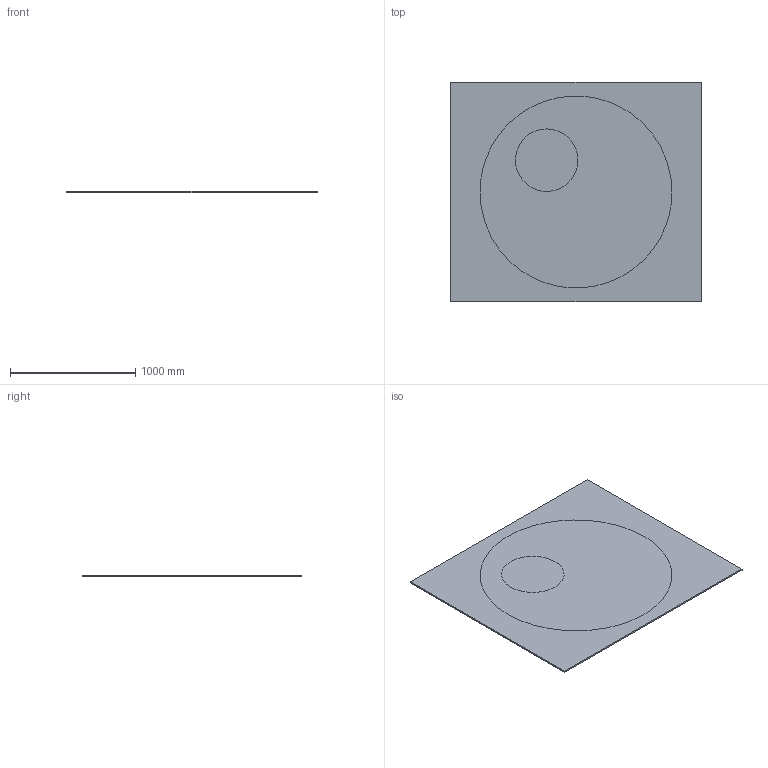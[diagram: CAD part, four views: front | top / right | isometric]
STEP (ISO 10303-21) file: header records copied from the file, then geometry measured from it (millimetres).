
FILE_DESCRIPTION(/* description */ (''),/* implementation_level */ '2;1');
FILE_NAME(/* name */ 'LaLune-Rug_3D_JS_20231010',/* time_stamp */ '2023-10-10T16:37:56+02:00',/* author */ (''),/* organization */ (''),/* preprocessor_version */ 'ST-DEVELOPER v16.5',/* originating_system */ 'Rhino 7.33',/* authorisation */ '');
FILE_SCHEMA (('CONFIG_CONTROL_DESIGN'));
Length unit declared in the file: millimetre
Products named in the file (1): Document
Bounding box: 2000 x 1750.18 x 12 mm (x, y, z)
Volume: 42004232.8 mm3; surface area: 7243944.1 mm2
Topology: 3 solids, 3 shells, 18 faces, 36 edges, 24 vertices
Faces by surface type: plane 10, cylinder 8
Entity records: 528 total; most frequent: CARTESIAN_POINT 164, ORIENTED_EDGE 72, EDGE_CURVE 36, VERTEX_POINT 24, EDGE_LOOP 22, DIRECTION 22, B_SPLINE_CURVE_WITH_KNOTS 20, AXIS2_PLACEMENT_3D 20
